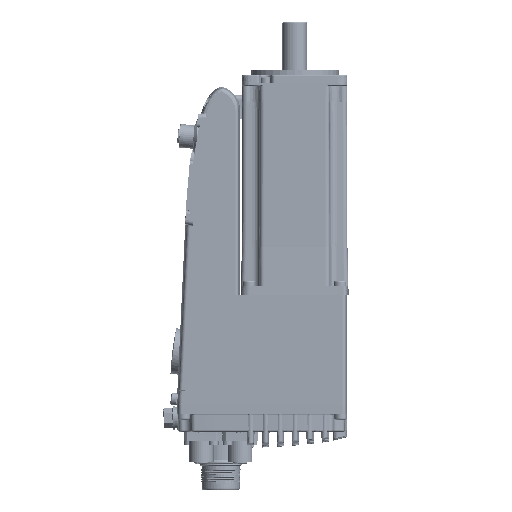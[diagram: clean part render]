
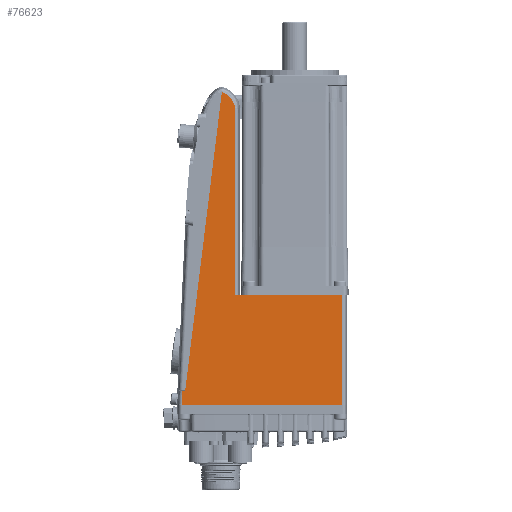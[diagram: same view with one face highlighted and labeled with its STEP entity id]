
A CAD part, left-side view. The second image highlights one B-rep face of the part: STEP entity #76623.
In plain terms, the highlighted planar face has unit normal (-1, 0, 0).
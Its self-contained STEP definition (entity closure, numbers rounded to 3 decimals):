
#7258=B_SPLINE_CURVE_WITH_KNOTS('',3,(#135664,#135665,#135666,#135667,#135668,
#135669,#135670,#135671,#135672,#135673,#135674,#135675,#135676,#135677,
#135678),.UNSPECIFIED.,.F.,.F.,(4,1,1,1,1,1,1,1,1,1,1,1,4),(0.741,
0.75,0.751,0.781,0.813,0.844,0.854,0.875,0.879,
0.906,0.938,0.969,1.),.UNSPECIFIED.);
#7259=B_SPLINE_CURVE_WITH_KNOTS('',3,(#135684,#135685,#135686,#135687),
 .UNSPECIFIED.,.F.,.F.,(4,4),(0.,1.),
 .UNSPECIFIED.);
#18704=ORIENTED_EDGE('',*,*,#30197,.F.);
#18705=ORIENTED_EDGE('',*,*,#30081,.T.);
#18706=ORIENTED_EDGE('',*,*,#30198,.T.);
#18707=ORIENTED_EDGE('',*,*,#30199,.F.);
#18708=ORIENTED_EDGE('',*,*,#30043,.F.);
#18709=ORIENTED_EDGE('',*,*,#30200,.T.);
#18710=ORIENTED_EDGE('',*,*,#30119,.F.);
#18711=ORIENTED_EDGE('',*,*,#30201,.T.);
#30043=EDGE_CURVE('',#36664,#36665,#40578,.T.);
#30081=EDGE_CURVE('',#36697,#36696,#40605,.T.);
#30119=EDGE_CURVE('',#36728,#36729,#40629,.T.);
#30197=EDGE_CURVE('',#36697,#36781,#7258,.T.);
#30198=EDGE_CURVE('',#36696,#36782,#40664,.T.);
#30199=EDGE_CURVE('',#36665,#36782,#40665,.F.);
#30200=EDGE_CURVE('',#36664,#36729,#40666,.T.);
#30201=EDGE_CURVE('',#36728,#36781,#7259,.T.);
#36664=VERTEX_POINT('',#134685);
#36665=VERTEX_POINT('',#134687);
#36696=VERTEX_POINT('',#134766);
#36697=VERTEX_POINT('',#134768);
#36728=VERTEX_POINT('',#134857);
#36729=VERTEX_POINT('',#134859);
#36781=VERTEX_POINT('',#135679);
#36782=VERTEX_POINT('',#135681);
#40578=LINE('',#134686,#44180);
#40605=LINE('',#134767,#44207);
#40629=LINE('',#134858,#44231);
#40664=LINE('',#135680,#44266);
#40665=LINE('',#135682,#44267);
#40666=LINE('',#135683,#44268);
#44180=VECTOR('',#95283,1000.);
#44207=VECTOR('',#95338,1000.);
#44231=VECTOR('',#95380,1000.);
#44266=VECTOR('',#95481,1000.);
#44267=VECTOR('',#95482,1000.);
#44268=VECTOR('',#95483,1000.);
#48871=EDGE_LOOP('',(#18704,#18705,#18706,#18707,#18708,#18709,#18710,#18711));
#53496=FACE_BOUND('',#48871,.T.);
#55633=PLANE('',#82517);
#76623=ADVANCED_FACE('',(#53496),#55633,.T.);
#82517=AXIS2_PLACEMENT_3D('',#135663,#95479,#95480);
#95283=DIRECTION('',(0.,1.,0.));
#95338=DIRECTION('',(0.,0.122,-0.993));
#95380=DIRECTION('',(0.,-1.,0.));
#95479=DIRECTION('',(-1.,0.,0.));
#95480=DIRECTION('',(0.,1.,0.));
#95481=DIRECTION('',(0.,1.,-0.009));
#95482=DIRECTION('',(0.,0.047,-0.999));
#95483=DIRECTION('',(0.,0.,1.));
#134685=CARTESIAN_POINT('',(-30.,-27.131,-62.8));
#134686=CARTESIAN_POINT('',(-30.,64.179,-62.8));
#134687=CARTESIAN_POINT('',(-30.,64.131,-62.8));
#134766=CARTESIAN_POINT('',(-30.,62.175,-54.46));
#134767=CARTESIAN_POINT('',(-30.,63.335,-63.904));
#134768=CARTESIAN_POINT('',(-30.,41.351,115.14));
#134857=CARTESIAN_POINT('',(-30.,33.84,0.));
#134858=CARTESIAN_POINT('',(-30.,33.865,0.));
#134859=CARTESIAN_POINT('',(-30.,-27.131,0.));
#135663=CARTESIAN_POINT('',(-30.,64.179,-63.8));
#135664=CARTESIAN_POINT('',(-30.,41.351,115.14));
#135665=CARTESIAN_POINT('',(-30.,41.278,115.139));
#135666=CARTESIAN_POINT('',(-30.,41.199,115.131));
#135667=CARTESIAN_POINT('',(-30.,40.85,115.076));
#135668=CARTESIAN_POINT('',(-30.,40.176,114.876));
#135669=CARTESIAN_POINT('',(-30.,38.714,114.021));
#135670=CARTESIAN_POINT('',(-30.,37.598,113.083));
#135671=CARTESIAN_POINT('',(-30.,36.76,112.255));
#135672=CARTESIAN_POINT('',(-30.,36.354,111.8));
#135673=CARTESIAN_POINT('',(-30.,35.788,111.093));
#135674=CARTESIAN_POINT('',(-30.,35.161,110.194));
#135675=CARTESIAN_POINT('',(-30.,34.464,108.767));
#135676=CARTESIAN_POINT('',(-30.,33.974,107.039));
#135677=CARTESIAN_POINT('',(-30.,33.865,105.634));
#135678=CARTESIAN_POINT('',(-30.,33.865,104.865));
#135679=CARTESIAN_POINT('',(-30.,33.865,104.865));
#135680=CARTESIAN_POINT('',(-30.,64.26,-54.478));
#135681=CARTESIAN_POINT('',(-30.,63.739,-54.473));
#135682=CARTESIAN_POINT('',(-30.,64.053,-61.15));
#135683=CARTESIAN_POINT('',(-30.,-27.131,-62.8));
#135684=CARTESIAN_POINT('',(-30.,33.865,0.));
#135685=CARTESIAN_POINT('',(-30.,33.865,34.955));
#135686=CARTESIAN_POINT('',(-30.,33.865,69.91));
#135687=CARTESIAN_POINT('',(-30.,33.865,104.865));
